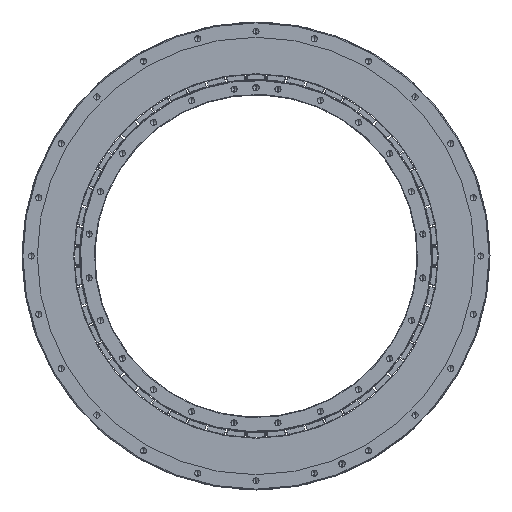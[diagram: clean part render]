
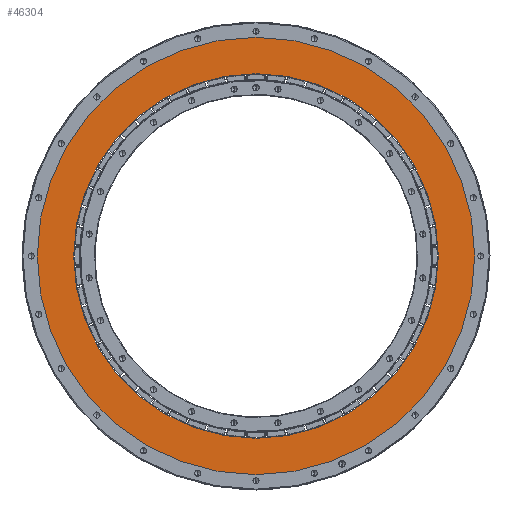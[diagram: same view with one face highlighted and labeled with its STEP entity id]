
A CAD part, front view. The second image highlights one B-rep face of the part: STEP entity #46304.
In plain terms, the highlighted planar face has unit normal (0, -1, 0).
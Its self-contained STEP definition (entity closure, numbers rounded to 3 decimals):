
#336 = CARTESIAN_POINT ( 'NONE',  ( 0., -79., 0. ) ) ;
#434 = CARTESIAN_POINT ( 'NONE',  ( 0., -79., -150. ) ) ;
#2368 = CIRCLE ( 'NONE', #35178, 179.93 ) ;
#7360 = AXIS2_PLACEMENT_3D ( 'NONE', #336, #38012, #24839 ) ;
#9894 = EDGE_CURVE ( 'NONE', #42048, #46432, #59707, .T. ) ;
#11006 = DIRECTION ( 'NONE',  ( 0., -1., 0. ) ) ;
#11510 = DIRECTION ( 'NONE',  ( 0., -1., 0. ) ) ;
#12872 = CARTESIAN_POINT ( 'NONE',  ( 0., -79., 0. ) ) ;
#15506 = AXIS2_PLACEMENT_3D ( 'NONE', #44190, #15531, #20495 ) ;
#15531 = DIRECTION ( 'NONE',  ( 0., -1., 0. ) ) ;
#16170 = CARTESIAN_POINT ( 'NONE',  ( 0., -79., 0. ) ) ;
#16269 = VERTEX_POINT ( 'NONE', #41963 ) ;
#16544 = EDGE_LOOP ( 'NONE', ( #60134, #32220 ) ) ;
#20495 = DIRECTION ( 'NONE',  ( 0., 0., -1. ) ) ;
#22226 = DIRECTION ( 'NONE',  ( 0., -1., 0. ) ) ;
#23137 = EDGE_CURVE ( 'NONE', #16269, #29944, #59300, .T. ) ;
#24839 = DIRECTION ( 'NONE',  ( 0., 0., -1. ) ) ;
#25563 = CARTESIAN_POINT ( 'NONE',  ( 0., -79., 0. ) ) ;
#27142 = DIRECTION ( 'NONE',  ( 0., 0., -1. ) ) ;
#28261 = AXIS2_PLACEMENT_3D ( 'NONE', #12872, #22226, #27142 ) ;
#29944 = VERTEX_POINT ( 'NONE', #40208 ) ;
#30466 = DIRECTION ( 'NONE',  ( 0., 0., -1. ) ) ;
#32220 = ORIENTED_EDGE ( 'NONE', *, *, #55510, .T. ) ;
#32801 = AXIS2_PLACEMENT_3D ( 'NONE', #25563, #11006, #35565 ) ;
#34542 = FACE_OUTER_BOUND ( 'NONE', #16544, .T. ) ;
#35178 = AXIS2_PLACEMENT_3D ( 'NONE', #16170, #11510, #30466 ) ;
#35565 = DIRECTION ( 'NONE',  ( 0., 0., -1. ) ) ;
#37338 = EDGE_LOOP ( 'NONE', ( #55658, #39537 ) ) ;
#38012 = DIRECTION ( 'NONE',  ( 0., -1., 0. ) ) ;
#39537 = ORIENTED_EDGE ( 'NONE', *, *, #56245, .F. ) ;
#40208 = CARTESIAN_POINT ( 'NONE',  ( 0., -79., 179.93 ) ) ;
#41243 = CIRCLE ( 'NONE', #28261, 150. ) ;
#41963 = CARTESIAN_POINT ( 'NONE',  ( 0., -79., -179.93 ) ) ;
#42048 = VERTEX_POINT ( 'NONE', #434 ) ;
#43609 = FACE_BOUND ( 'NONE', #37338, .T. ) ;
#44190 = CARTESIAN_POINT ( 'NONE',  ( 0., -79., 0. ) ) ;
#46304 = ADVANCED_FACE ( 'NONE', ( #43609, #34542 ), #57963, .T. ) ;
#46432 = VERTEX_POINT ( 'NONE', #60415 ) ;
#55510 = EDGE_CURVE ( 'NONE', #29944, #16269, #2368, .T. ) ;
#55658 = ORIENTED_EDGE ( 'NONE', *, *, #9894, .F. ) ;
#56245 = EDGE_CURVE ( 'NONE', #46432, #42048, #41243, .T. ) ;
#57963 = PLANE ( 'NONE',  #7360 ) ;
#59300 = CIRCLE ( 'NONE', #15506, 179.93 ) ;
#59707 = CIRCLE ( 'NONE', #32801, 150. ) ;
#60134 = ORIENTED_EDGE ( 'NONE', *, *, #23137, .T. ) ;
#60415 = CARTESIAN_POINT ( 'NONE',  ( 0., -79., 150. ) ) ;
